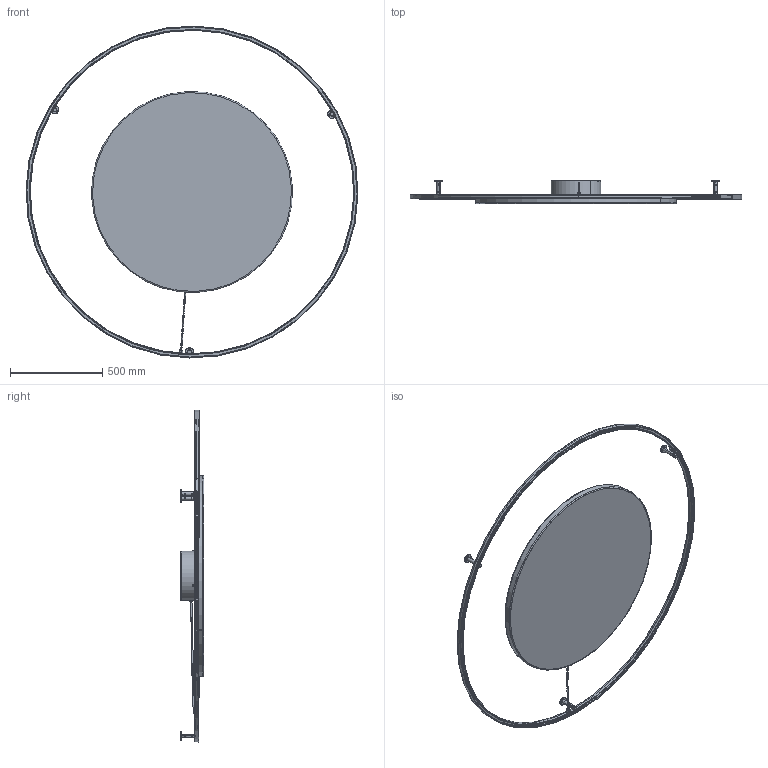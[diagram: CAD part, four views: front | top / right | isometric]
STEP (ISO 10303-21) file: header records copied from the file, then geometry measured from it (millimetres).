
FILE_DESCRIPTION (( 'STEP AP203' ), '1' );
FILE_NAME ('PLULA1-180-SOUND ABSORBING.STEP', '2023-09-25T17:39:44', ( '' ), ( '' ), 'SwSTEP 2.0', 'SolidWorks 2023', '' );
FILE_SCHEMA (( 'CONFIG_CONTROL_DESIGN' ));
Length unit declared in the file: millimetre
Products named in the file (20): ISO7046_M4_H25; socket countersunk head screw_iso_WSMCVII-04A20-0141; WSCM2A0042-0700-00; ISO7046_M4_H12; WSF0GNS0135NI3034; PLULA1-180-SOUND ABSORBING; Pannelli Definitivi Tappezziere_PANNELLO PLULA 160-180 Ø1090mm H40-45mm; WSMCTFA10C015-0141; WSASS-000000016-32; TANG YAO-7727-P415 + RIV TESSILE 33- PER ANELLI; WSCM2A0043-0700-00; socket countersunk head screw_iso_ISO 10642 - M8 x 20 --- 20N; PANNELLI TAPPEZZIERE DEFINITIVI_PANULA1093540AV; WS0T21024---------; Piedino_Plafone; WSCM2A0022-0700-00; ULIGHT180_PPL; WSCM2A0030-0700-01; WSCM2D0032-0700-00; piedino_poliuretano_Ø30
Assembly tree (27 placements, depth 4):
  PLULA1-180-SOUND ABSORBING
    ULIGHT180_PPL
      WSCM2D0032-0700-00
      WSCM2A0022-0700-00
      WS0T21024---------  x2
      Piedino_Plafone  x3
        WSCM2A0030-0700-01
        socket countersunk head screw_iso_ISO 10642 - M8 x 20 --- 20N
        WSCM2A0043-0700-00
        WSMCTFA10C015-0141
        WSCM2A0042-0700-00
        socket countersunk head screw_iso_WSMCVII-04A20-0141
      WSASS-000000016-32
    Pannelli Definitivi Tappezziere_PANNELLO PLULA 160-180 Ø1090mm H40-45mm
      PANNELLI TAPPEZZIERE DEFINITIVI_PANULA1093540AV
      WSF0GNS0135NI3034  x3
      ISO7046_M4_H12
      piedino_poliuretano_Ø30  x3
      ISO7046_M4_H25  x2
    TANG YAO-7727-P415 + RIV TESSILE 33- PER ANELLI
Bounding box: 1799.78 x 127.95 x 1799.78 mm (x, y, z)
Volume: 34487988.5 mm3; surface area: 8267237.2 mm2
Topology: 60 solids, 60 shells, 3681 faces, 9933 edges, 6281 vertices
Faces by surface type: plane 1635, cylinder 1080, bspline 388, cone 372, torus 190, sphere 16
Entity records: 139242 total; most frequent: CARTESIAN_POINT 57595, ORIENTED_EDGE 18126, DIRECTION 14237, EDGE_CURVE 9063, VERTEX_POINT 5835, LINE 4767, VECTOR 4767, AXIS2_PLACEMENT_3D 4735
